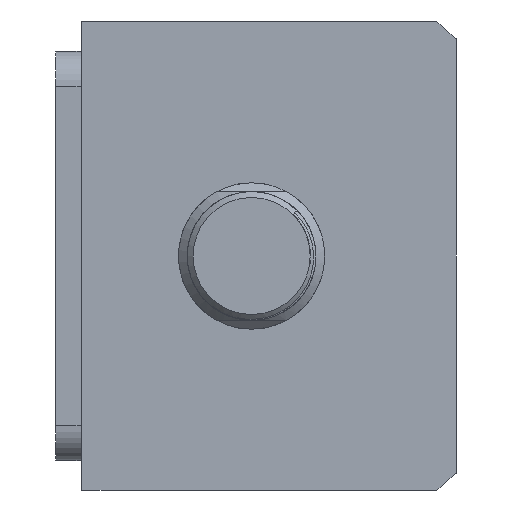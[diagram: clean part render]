
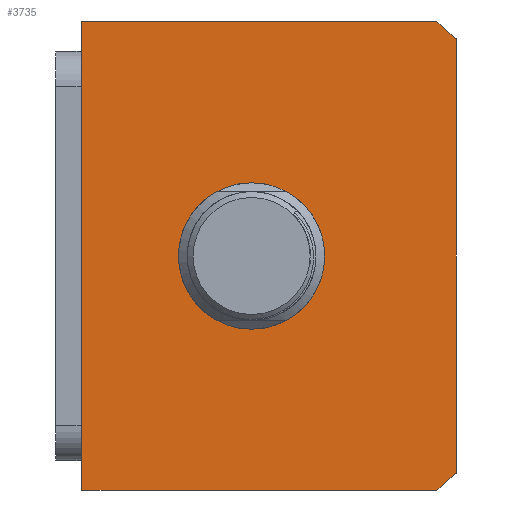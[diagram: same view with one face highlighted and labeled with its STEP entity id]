
A CAD part, front view. The second image highlights one B-rep face of the part: STEP entity #3735.
In plain terms, the highlighted planar face has unit normal (0, -1, 0).
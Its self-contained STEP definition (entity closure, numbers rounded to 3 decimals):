
#998=FACE_BOUND('',#4704,.T.);
#999=FACE_BOUND('',#4705,.T.);
#3385=PLANE('',#12687);
#3735=ADVANCED_FACE('',(#998,#999),#3385,.F.);
#4704=EDGE_LOOP('',(#7359));
#4705=EDGE_LOOP('',(#7360,#7361,#7362,#7363,#7364,#7365));
#5274=LINE('',#15216,#6221);
#5286=LINE('',#15418,#6233);
#5302=LINE('',#15451,#6249);
#5318=LINE('',#15494,#6265);
#6221=VECTOR('',#13172,1.);
#6233=VECTOR('',#13262,1.);
#6249=VECTOR('',#13280,1.);
#6265=VECTOR('',#13314,1.);
#7359=ORIENTED_EDGE('',*,*,#11150,.T.);
#7360=ORIENTED_EDGE('',*,*,#11202,.F.);
#7361=ORIENTED_EDGE('',*,*,#11125,.F.);
#7362=ORIENTED_EDGE('',*,*,#11203,.F.);
#7363=ORIENTED_EDGE('',*,*,#11164,.F.);
#7364=ORIENTED_EDGE('',*,*,#11204,.F.);
#7365=ORIENTED_EDGE('',*,*,#11180,.F.);
#10100=VERTEX_POINT('',#15215);
#10101=VERTEX_POINT('',#15217);
#10125=VERTEX_POINT('',#15384);
#10137=VERTEX_POINT('',#15416);
#10139=VERTEX_POINT('',#15419);
#10153=VERTEX_POINT('',#15449);
#10155=VERTEX_POINT('',#15452);
#11125=EDGE_CURVE('',#10100,#10101,#5274,.T.);
#11150=EDGE_CURVE('',#10125,#10125,#12539,.T.);
#11164=EDGE_CURVE('',#10137,#10139,#5286,.T.);
#11180=EDGE_CURVE('',#10153,#10155,#5302,.T.);
#11202=EDGE_CURVE('',#10101,#10153,#12558,.T.);
#11203=EDGE_CURVE('',#10139,#10100,#5318,.T.);
#11204=EDGE_CURVE('',#10155,#10137,#12559,.T.);
#12539=CIRCLE('',#12656,12.5);
#12558=CIRCLE('',#12685,51.);
#12559=CIRCLE('',#12686,51.);
#12656=AXIS2_PLACEMENT_3D('',#15383,#13221,#13222);
#12685=AXIS2_PLACEMENT_3D('',#15493,#13312,#13313);
#12686=AXIS2_PLACEMENT_3D('',#15495,#13315,#13316);
#12687=AXIS2_PLACEMENT_3D('',#15496,#13317,#13318);
#13172=DIRECTION('',(1.,0.,0.));
#13221=DIRECTION('',(0.,1.,0.));
#13222=DIRECTION('',(0.,0.,-1.));
#13262=DIRECTION('',(-1.,0.,0.));
#13280=DIRECTION('',(0.,0.,-1.));
#13312=DIRECTION('',(0.,1.,0.));
#13313=DIRECTION('',(0.,0.,-1.));
#13314=DIRECTION('',(0.,0.,1.));
#13315=DIRECTION('',(0.,1.,0.));
#13316=DIRECTION('',(0.,0.,-1.));
#13317=DIRECTION('',(0.,1.,0.));
#13318=DIRECTION('',(0.,0.,1.));
#15215=CARTESIAN_POINT('',(16.894,-55.165,27.385));
#15216=CARTESIAN_POINT('',(16.894,-55.165,27.385));
#15217=CARTESIAN_POINT('',(77.532,-55.165,27.385));
#15383=CARTESIAN_POINT('',(45.894,-55.165,-12.615));
#15384=CARTESIAN_POINT('',(45.894,-55.165,-25.115));
#15416=CARTESIAN_POINT('',(77.532,-55.165,-52.615));
#15418=CARTESIAN_POINT('',(16.894,-55.165,-52.615));
#15419=CARTESIAN_POINT('',(16.894,-55.165,-52.615));
#15449=CARTESIAN_POINT('',(80.894,-55.165,24.479));
#15451=CARTESIAN_POINT('',(80.894,-55.165,27.385));
#15452=CARTESIAN_POINT('',(80.894,-55.165,-49.71));
#15493=CARTESIAN_POINT('',(45.894,-55.165,-12.615));
#15494=CARTESIAN_POINT('',(16.894,-55.165,27.385));
#15495=CARTESIAN_POINT('',(45.894,-55.165,-12.615));
#15496=CARTESIAN_POINT('',(48.894,-55.165,-12.615));
